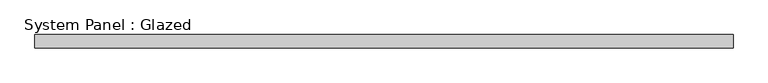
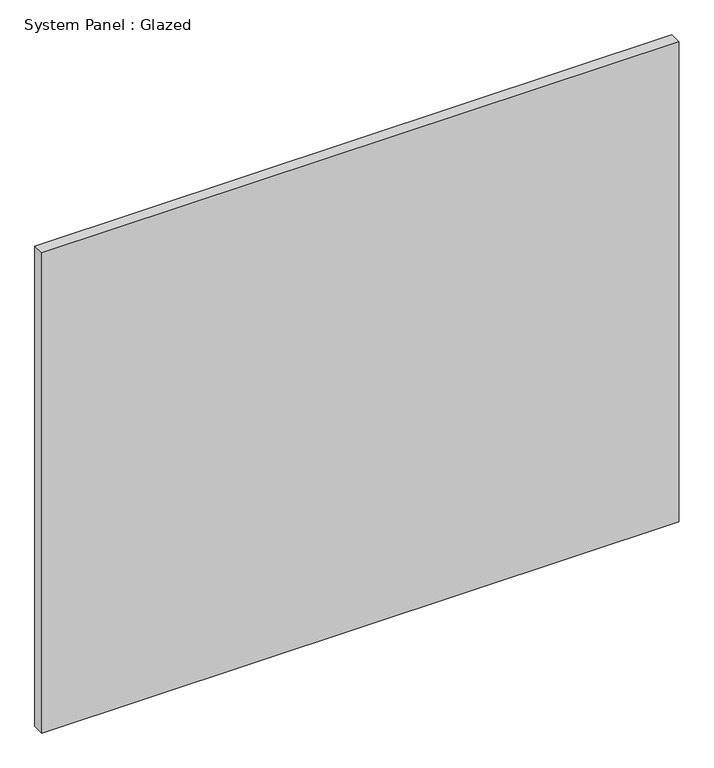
"""IFC4 building model written with IfcOpenShell, lengths in millimetres: plate geometry, System Panel : Glazed."""

from ifc_helpers import new_model, si_unit, origin, origin_with_axes, place, context, project, spatial, polyline, outline, extrude, source, transform, mapped, element, save


def system_panel_glazed_132a59f4(model_context):
    return source(origin(), model_context, "Body", "SweptSolid", [
        extrude(outline(polyline([(669.5386914, 19.05), (-669.5386914, 19.05), (-669.5386914, 44.45), (669.5386914, 44.45), (669.5386914, 19.05)])), origin_with_axes(), (0.0, 0.0, 1.0), 1066.0767085),
    ])


if __name__ == "__main__":
    model = new_model("IFC4")
    model_context = context("Model", 3, world=origin())
    ifc_project = project(units=[si_unit("LENGTHUNIT", "METRE", prefix="MILLI")], contexts=[model_context])
    site = spatial("IfcSite", under=ifc_project)
    building = spatial("IfcBuilding", under=site)
    placement = place(None, origin())
    system_panel_glazed_shape = system_panel_glazed_132a59f4(model_context)
    element("IfcPlate", 1, ObjectType="System Panel : Glazed", at=placement, inside=building, context=model_context, shape_type="MappedRepresentation", body=[
        mapped(system_panel_glazed_shape, transform((0.0, 0.0, 0.0), x_axis=(1.0, 0.0, 0.0), y_axis=(0.0, 1.0, 0.0), z_axis=(0.0, 0.0, 1.0))),
    ])
    save(model, "model.ifc")
